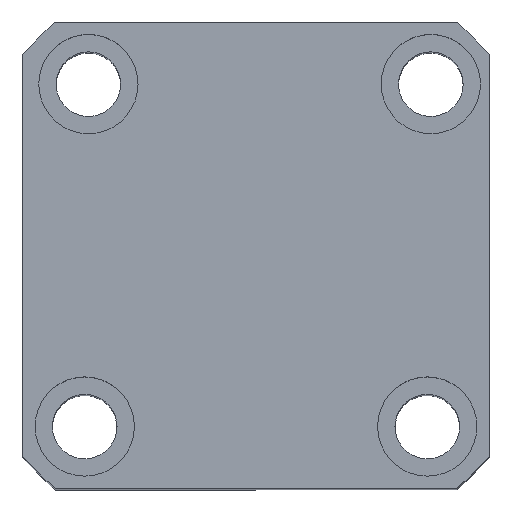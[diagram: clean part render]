
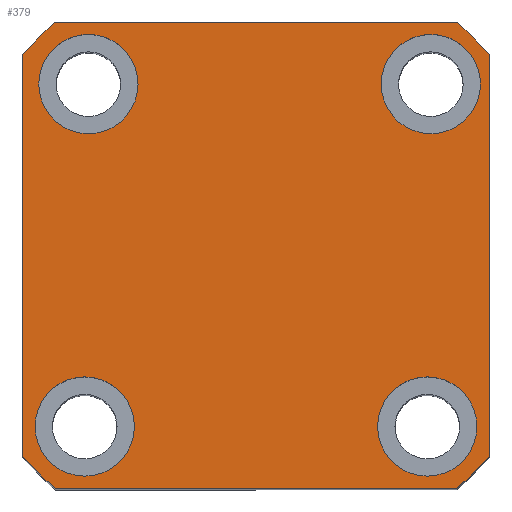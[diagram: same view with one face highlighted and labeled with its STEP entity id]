
A CAD part, top view. The second image highlights one B-rep face of the part: STEP entity #379.
In plain terms, the highlighted planar face has unit normal (0, 0, 1) as drawn and (0, 0, -1) by its records, which use the part's own axes.
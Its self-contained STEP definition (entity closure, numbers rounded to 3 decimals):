
#9 = EDGE_CURVE ( 'NONE', #1835, #6786, #8522, .T. ) ;
#16 = EDGE_CURVE ( 'NONE', #5374, #1835, #17709, .T. ) ;
#314 = DIRECTION ( 'NONE',  ( 1., 0., 0. ) ) ;
#379 = ADVANCED_FACE ( 'NONE', ( #10939, #5778, #19071, #1130, #14460 ), #519, .F. ) ;
#479 = VERTEX_POINT ( 'NONE', #16195 ) ;
#495 = VERTEX_POINT ( 'NONE', #18385 ) ;
#519 = PLANE ( 'NONE',  #1900 ) ;
#752 = CARTESIAN_POINT ( 'NONE',  ( 0., 0., 0. ) ) ;
#859 = CARTESIAN_POINT ( 'NONE',  ( 47., 47., 0. ) ) ;
#1130 = FACE_BOUND ( 'NONE', #5499, .T. ) ;
#1182 = CIRCLE ( 'NONE', #18624, 62. ) ;
#1236 = AXIS2_PLACEMENT_3D ( 'NONE', #21075, #10746, #314 ) ;
#1241 = AXIS2_PLACEMENT_3D ( 'NONE', #17019, #6648, #18764 ) ;
#1566 = CARTESIAN_POINT ( 'NONE',  ( 25.23, -34.5, 0. ) ) ;
#1570 = CARTESIAN_POINT ( 'NONE',  ( 40.435, -47., 0. ) ) ;
#1812 = VERTEX_POINT ( 'NONE', #1570 ) ;
#1835 = VERTEX_POINT ( 'NONE', #3346 ) ;
#1900 = AXIS2_PLACEMENT_3D ( 'NONE', #752, #2715, #3920 ) ;
#2101 = ORIENTED_EDGE ( 'NONE', *, *, #6197, .F. ) ;
#2154 = CARTESIAN_POINT ( 'NONE',  ( -33.77, -34.5, 0. ) ) ;
#2308 = EDGE_CURVE ( 'NONE', #14096, #16589, #8755, .T. ) ;
#2665 = CIRCLE ( 'NONE', #20296, 62. ) ;
#2715 = DIRECTION ( 'NONE',  ( 0., 0., 1. ) ) ;
#3298 = DIRECTION ( 'NONE',  ( 0., 0., -1. ) ) ;
#3346 = CARTESIAN_POINT ( 'NONE',  ( -47., -40.435, 0. ) ) ;
#3585 = DIRECTION ( 'NONE',  ( 0., 0., 1. ) ) ;
#3612 = DIRECTION ( 'NONE',  ( 0., -1., 0. ) ) ;
#3704 = DIRECTION ( 'NONE',  ( 1., 0., 0. ) ) ;
#3706 = ORIENTED_EDGE ( 'NONE', *, *, #19498, .F. ) ;
#3708 = CIRCLE ( 'NONE', #17846, 10. ) ;
#3790 = EDGE_LOOP ( 'NONE', ( #14102, #7875, #20049, #18976, #21915, #20834, #10556, #9488 ) ) ;
#3898 = DIRECTION ( 'NONE',  ( -1., 0., 0. ) ) ;
#3920 = DIRECTION ( 'NONE',  ( 1., 0., 0. ) ) ;
#4361 = CARTESIAN_POINT ( 'NONE',  ( 34.5, 34.5, 0. ) ) ;
#4384 = EDGE_CURVE ( 'NONE', #6786, #1812, #19272, .T. ) ;
#4385 = EDGE_CURVE ( 'NONE', #1812, #20237, #10077, .T. ) ;
#4758 = CIRCLE ( 'NONE', #9033, 10. ) ;
#5134 = LINE ( 'NONE', #859, #14366 ) ;
#5374 = VERTEX_POINT ( 'NONE', #10213 ) ;
#5390 = VERTEX_POINT ( 'NONE', #11960 ) ;
#5499 = EDGE_LOOP ( 'NONE', ( #2101, #15213 ) ) ;
#5778 = FACE_BOUND ( 'NONE', #18792, .T. ) ;
#5839 = CARTESIAN_POINT ( 'NONE',  ( 40.435, 47., 0. ) ) ;
#5866 = AXIS2_PLACEMENT_3D ( 'NONE', #14136, #14270, #14348 ) ;
#6010 = VECTOR ( 'NONE', #3704, 1000. ) ;
#6144 = DIRECTION ( 'NONE',  ( -1., 0., 0. ) ) ;
#6197 = EDGE_CURVE ( 'NONE', #13025, #479, #7142, .T. ) ;
#6232 = VERTEX_POINT ( 'NONE', #1566 ) ;
#6419 = CARTESIAN_POINT ( 'NONE',  ( 35.23, -34.5, 0. ) ) ;
#6509 = ORIENTED_EDGE ( 'NONE', *, *, #8226, .F. ) ;
#6648 = DIRECTION ( 'NONE',  ( 0., 0., -1. ) ) ;
#6786 = VERTEX_POINT ( 'NONE', #17884 ) ;
#7007 = CARTESIAN_POINT ( 'NONE',  ( -40.435, 47., 0. ) ) ;
#7142 = CIRCLE ( 'NONE', #12151, 10. ) ;
#7875 = ORIENTED_EDGE ( 'NONE', *, *, #13870, .F. ) ;
#8163 = DIRECTION ( 'NONE',  ( -1., 0., 0. ) ) ;
#8201 = CARTESIAN_POINT ( 'NONE',  ( 47., -40.435, 0. ) ) ;
#8226 = EDGE_CURVE ( 'NONE', #5390, #9519, #13619, .T. ) ;
#8430 = VERTEX_POINT ( 'NONE', #13959 ) ;
#8440 = CARTESIAN_POINT ( 'NONE',  ( -44.5, 34.5, 0. ) ) ;
#8522 = CIRCLE ( 'NONE', #5866, 62. ) ;
#8531 = CARTESIAN_POINT ( 'NONE',  ( 34.5, 34.5, 0. ) ) ;
#8755 = CIRCLE ( 'NONE', #18556, 10. ) ;
#8781 = DIRECTION ( 'NONE',  ( 0., 0., -1. ) ) ;
#8942 = DIRECTION ( 'NONE',  ( -1., 0., 0. ) ) ;
#9015 = AXIS2_PLACEMENT_3D ( 'NONE', #9121, #21196, #10866 ) ;
#9033 = AXIS2_PLACEMENT_3D ( 'NONE', #4361, #16531, #6144 ) ;
#9121 = CARTESIAN_POINT ( 'NONE',  ( 35.23, -34.5, 0. ) ) ;
#9231 = EDGE_LOOP ( 'NONE', ( #21918, #16541 ) ) ;
#9488 = ORIENTED_EDGE ( 'NONE', *, *, #17649, .F. ) ;
#9519 = VERTEX_POINT ( 'NONE', #10697 ) ;
#10077 = CIRCLE ( 'NONE', #1236, 62. ) ;
#10116 = CARTESIAN_POINT ( 'NONE',  ( 0., 0., 0. ) ) ;
#10213 = CARTESIAN_POINT ( 'NONE',  ( -47., 40.435, 0. ) ) ;
#10258 = DIRECTION ( 'NONE',  ( -1., 0., 0. ) ) ;
#10556 = ORIENTED_EDGE ( 'NONE', *, *, #13577, .F. ) ;
#10586 = ORIENTED_EDGE ( 'NONE', *, *, #12538, .F. ) ;
#10603 = CARTESIAN_POINT ( 'NONE',  ( -47., -47., 0. ) ) ;
#10697 = CARTESIAN_POINT ( 'NONE',  ( 44.5, 34.5, 0. ) ) ;
#10746 = DIRECTION ( 'NONE',  ( 0., 0., 1. ) ) ;
#10857 = CARTESIAN_POINT ( 'NONE',  ( -43.77, -34.5, 0. ) ) ;
#10866 = DIRECTION ( 'NONE',  ( -1., 0., 0. ) ) ;
#10939 = FACE_BOUND ( 'NONE', #9231, .T. ) ;
#11049 = AXIS2_PLACEMENT_3D ( 'NONE', #6419, #18530, #8163 ) ;
#11861 = DIRECTION ( 'NONE',  ( 1., 0., 0. ) ) ;
#11960 = CARTESIAN_POINT ( 'NONE',  ( 24.5, 34.5, 0. ) ) ;
#12151 = AXIS2_PLACEMENT_3D ( 'NONE', #13747, #3298, #15505 ) ;
#12538 = EDGE_CURVE ( 'NONE', #8430, #6232, #13323, .T. ) ;
#13025 = VERTEX_POINT ( 'NONE', #8440 ) ;
#13032 = DIRECTION ( 'NONE',  ( 0., 1., 0. ) ) ;
#13323 = CIRCLE ( 'NONE', #9015, 10. ) ;
#13576 = EDGE_CURVE ( 'NONE', #16589, #14096, #20585, .T. ) ;
#13577 = EDGE_CURVE ( 'NONE', #16259, #5374, #2665, .T. ) ;
#13619 = CIRCLE ( 'NONE', #16682, 10. ) ;
#13747 = CARTESIAN_POINT ( 'NONE',  ( -34.5, 34.5, 0. ) ) ;
#13870 = EDGE_CURVE ( 'NONE', #20237, #495, #5134, .T. ) ;
#13959 = CARTESIAN_POINT ( 'NONE',  ( 45.23, -34.5, 0. ) ) ;
#14014 = VECTOR ( 'NONE', #8942, 1000. ) ;
#14030 = CARTESIAN_POINT ( 'NONE',  ( 0., 0., 0. ) ) ;
#14056 = CARTESIAN_POINT ( 'NONE',  ( -47., 47., 0. ) ) ;
#14096 = VERTEX_POINT ( 'NONE', #20349 ) ;
#14102 = ORIENTED_EDGE ( 'NONE', *, *, #20819, .F. ) ;
#14136 = CARTESIAN_POINT ( 'NONE',  ( 0., 0., 0. ) ) ;
#14158 = CARTESIAN_POINT ( 'NONE',  ( -47., 47., 0. ) ) ;
#14270 = DIRECTION ( 'NONE',  ( 0., 0., 1. ) ) ;
#14336 = DIRECTION ( 'NONE',  ( 0., 0., -1. ) ) ;
#14348 = DIRECTION ( 'NONE',  ( 1., 0., 0. ) ) ;
#14366 = VECTOR ( 'NONE', #13032, 1000. ) ;
#14460 = FACE_OUTER_BOUND ( 'NONE', #3790, .T. ) ;
#14912 = ORIENTED_EDGE ( 'NONE', *, *, #18369, .F. ) ;
#15213 = ORIENTED_EDGE ( 'NONE', *, *, #15225, .F. ) ;
#15225 = EDGE_CURVE ( 'NONE', #479, #13025, #3708, .T. ) ;
#15505 = DIRECTION ( 'NONE',  ( -1., 0., 0. ) ) ;
#15789 = DIRECTION ( 'NONE',  ( 1., 0., 0. ) ) ;
#16195 = CARTESIAN_POINT ( 'NONE',  ( -24.5, 34.5, 0. ) ) ;
#16259 = VERTEX_POINT ( 'NONE', #7007 ) ;
#16531 = DIRECTION ( 'NONE',  ( 0., 0., -1. ) ) ;
#16541 = ORIENTED_EDGE ( 'NONE', *, *, #2308, .F. ) ;
#16589 = VERTEX_POINT ( 'NONE', #10857 ) ;
#16682 = AXIS2_PLACEMENT_3D ( 'NONE', #8531, #20610, #10258 ) ;
#17019 = CARTESIAN_POINT ( 'NONE',  ( -33.77, -34.5, 0. ) ) ;
#17649 = EDGE_CURVE ( 'NONE', #19007, #16259, #20244, .T. ) ;
#17709 = LINE ( 'NONE', #14056, #21759 ) ;
#17846 = AXIS2_PLACEMENT_3D ( 'NONE', #19144, #8781, #20862 ) ;
#17884 = CARTESIAN_POINT ( 'NONE',  ( -40.435, -47., 0. ) ) ;
#18369 = EDGE_CURVE ( 'NONE', #6232, #8430, #19405, .T. ) ;
#18385 = CARTESIAN_POINT ( 'NONE',  ( 47., 40.435, 0. ) ) ;
#18530 = DIRECTION ( 'NONE',  ( 0., 0., -1. ) ) ;
#18556 = AXIS2_PLACEMENT_3D ( 'NONE', #2154, #14336, #3898 ) ;
#18624 = AXIS2_PLACEMENT_3D ( 'NONE', #14030, #3585, #15789 ) ;
#18764 = DIRECTION ( 'NONE',  ( -1., 0., 0. ) ) ;
#18792 = EDGE_LOOP ( 'NONE', ( #14912, #10586 ) ) ;
#18976 = ORIENTED_EDGE ( 'NONE', *, *, #4384, .F. ) ;
#19007 = VERTEX_POINT ( 'NONE', #5839 ) ;
#19071 = FACE_BOUND ( 'NONE', #19636, .T. ) ;
#19144 = CARTESIAN_POINT ( 'NONE',  ( -34.5, 34.5, 0. ) ) ;
#19272 = LINE ( 'NONE', #10603, #6010 ) ;
#19405 = CIRCLE ( 'NONE', #11049, 10. ) ;
#19498 = EDGE_CURVE ( 'NONE', #9519, #5390, #4758, .T. ) ;
#19636 = EDGE_LOOP ( 'NONE', ( #6509, #3706 ) ) ;
#20049 = ORIENTED_EDGE ( 'NONE', *, *, #4385, .F. ) ;
#20237 = VERTEX_POINT ( 'NONE', #8201 ) ;
#20244 = LINE ( 'NONE', #14158, #14014 ) ;
#20296 = AXIS2_PLACEMENT_3D ( 'NONE', #10116, #22197, #11861 ) ;
#20349 = CARTESIAN_POINT ( 'NONE',  ( -23.77, -34.5, 0. ) ) ;
#20585 = CIRCLE ( 'NONE', #1241, 10. ) ;
#20610 = DIRECTION ( 'NONE',  ( 0., 0., -1. ) ) ;
#20819 = EDGE_CURVE ( 'NONE', #495, #19007, #1182, .T. ) ;
#20834 = ORIENTED_EDGE ( 'NONE', *, *, #16, .F. ) ;
#20862 = DIRECTION ( 'NONE',  ( -1., 0., 0. ) ) ;
#21075 = CARTESIAN_POINT ( 'NONE',  ( 0., 0., 0. ) ) ;
#21196 = DIRECTION ( 'NONE',  ( 0., 0., -1. ) ) ;
#21759 = VECTOR ( 'NONE', #3612, 1000. ) ;
#21915 = ORIENTED_EDGE ( 'NONE', *, *, #9, .F. ) ;
#21918 = ORIENTED_EDGE ( 'NONE', *, *, #13576, .F. ) ;
#22197 = DIRECTION ( 'NONE',  ( 0., 0., 1. ) ) ;
